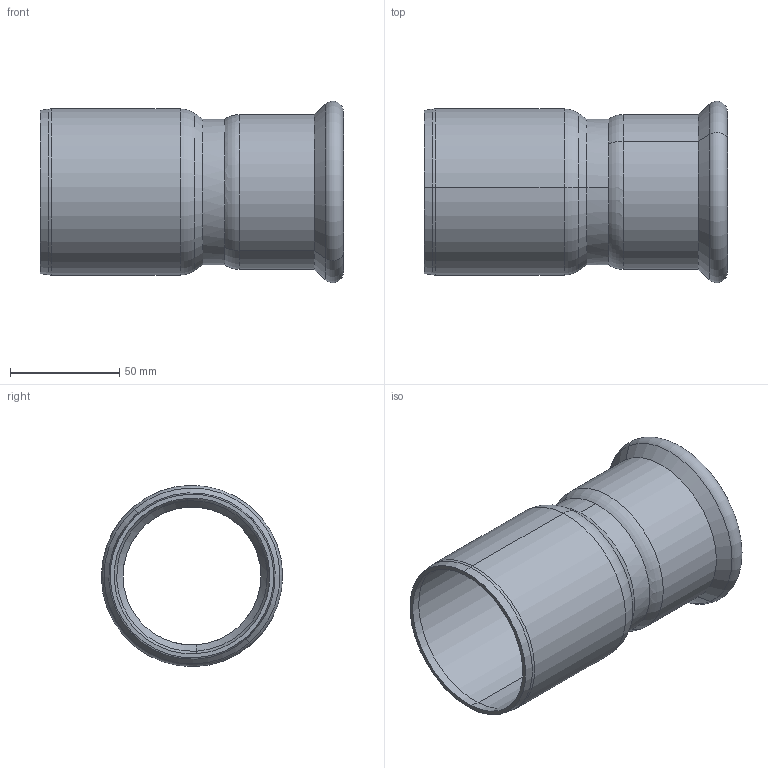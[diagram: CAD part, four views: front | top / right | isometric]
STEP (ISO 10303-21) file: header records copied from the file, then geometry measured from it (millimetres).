
FILE_DESCRIPTION(('CoCreate Modeling STEP Export'),'2;1');
FILE_NAME('C1407 76x67.stp','2014-10-23T15:47:54',(''),(''),'CoCreate Modeling STEP processor for AP214 (Solid Model)','CoCreate Modeling 17.00A 17-Jun-2010 (C) Parametric Technology GmbH','');
FILE_SCHEMA(('AUTOMOTIVE_DESIGN { 1 0 10303 214 1 1 1 1 }'));
Length unit declared in the file: millimetre
Products named in the file (2): Reducer_76x67mm
Assembly tree (1 placements, depth 2):
  Reducer_76x67mm
    Reducer_76x67mm
Bounding box: 138.99 x 82.91 x 82.91 mm (x, y, z)
Volume: 69032 mm3; surface area: 65878.8 mm2
Topology: 1 solids, 1 shells, 49 faces, 113 edges, 67 vertices
Faces by surface type: cone 18, cylinder 16, torus 12, plane 3
Entity records: 1135 total; most frequent: ORIENTED_EDGE 226, CARTESIAN_POINT 167, DIRECTION 166, EDGE_CURVE 113, VERTEX_POINT 67, AXIS2_PLACEMENT_3D 66, EDGE_LOOP 52, FACE_OUTER_BOUND 49
